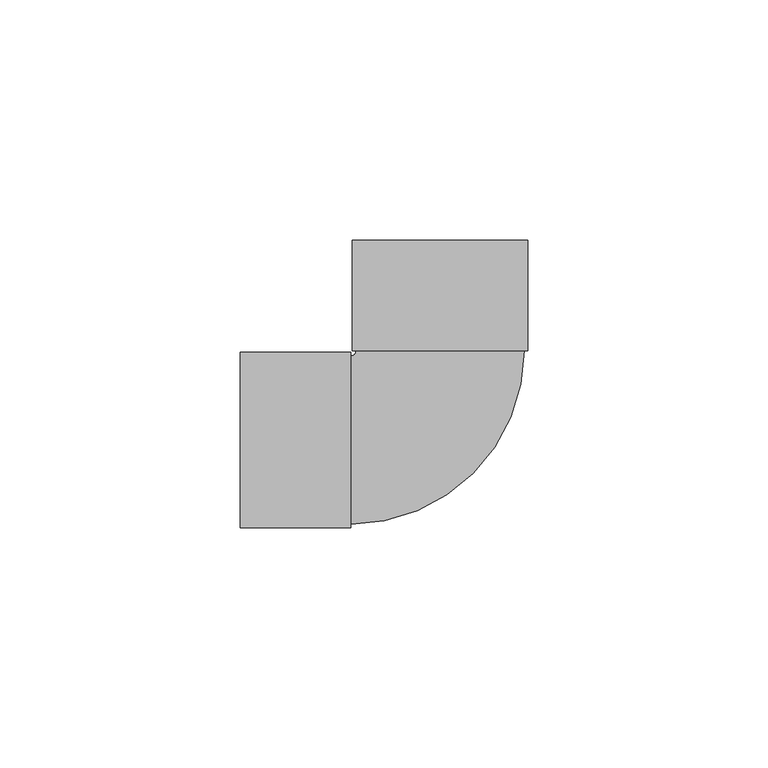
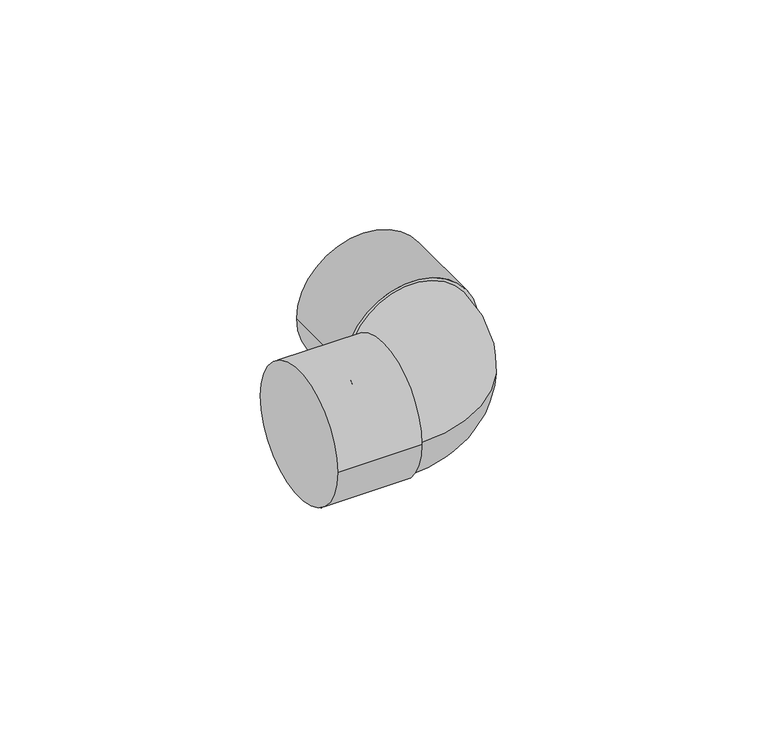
"""IFC4 building model written with IfcOpenShell, lengths in millimetres: pipe fitting geometry, Cotovelo - Soldado - CU : Padrão."""

from ifc_helpers import new_model, si_unit, point, frame, origin, place, context, project, spatial, circle_curve, ellipse_curve, trimmed, source, transform, mapped, element, save
from ifc_brep_helpers import plane_surface, cylinder_surface, revolved_surface, advanced_brep


def pipe_fitting_535881cf(model_context):
    return source(origin(), model_context, "Body", "AdvancedBrep", [
        advanced_brep(
        [(-17.5, 18.6, 0.0), (-18.6, 17.5, 0.0), (-18.6, -17.5, 0.0), (17.5, 18.6, 0.0), (-41.6, -18.28, 0.0), (-41.6, 18.28, 0.0), (-18.6, -18.28, 0.0), (-18.6, 18.28, 0.0), (-18.28, 41.6, 0.0), (18.28, 41.6, 0.0), (-18.28, 18.6, 0.0), (18.28, 18.6, 0.0)],
        [
            (0, 1, circle_curve(frame((-18.6, 18.6, 0.0), z_axis=(0.0, 0.0, -1.0), x_axis=(0.0, -1.0, 0.0)), 1.1)),
            (1, 2, circle_curve(frame((-18.6, 0.0, 0.0), z_axis=(1.0, 0.0, 0.0), x_axis=(0.0, 1.0, 0.0)), 17.5)),
            (2, 3, circle_curve(frame((-18.6, 18.6, 0.0), z_axis=(0.0, 0.0, 1.0), x_axis=(0.0, -1.0, 0.0)), 36.1)),
            (3, 0, circle_curve(frame((0.0, 18.6, 0.0), z_axis=(0.0, -1.0, 0.0), x_axis=(-1.0, 0.0, 0.0)), 17.5)),
            (0, 3, circle_curve(frame((0.0, 18.6, 0.0), z_axis=(0.0, -1.0, 0.0), x_axis=(-1.0, 0.0, 0.0)), 17.5)),
            (2, 1, circle_curve(frame((-18.6, 0.0, 0.0), z_axis=(1.0, 0.0, 0.0), x_axis=(0.0, 1.0, 0.0)), 17.5)),
            (4, 5, circle_curve(frame((-41.6, 0.0, 0.0), z_axis=(-1.0, 0.0, 0.0), x_axis=(0.0, 1.0, 0.0)), 18.28)),
            (5, 4, circle_curve(frame((-41.6, 0.0, 0.0), z_axis=(-1.0, 0.0, 0.0), x_axis=(0.0, 1.0, 0.0)), 18.28)),
            (6, 7, circle_curve(frame((-18.6, 0.0, 0.0), z_axis=(1.0, 0.0, 0.0), x_axis=(0.0, 1.0, 0.0)), 18.28)),
            (7, 6, circle_curve(frame((-18.6, 0.0, 0.0), z_axis=(1.0, 0.0, 0.0), x_axis=(0.0, 1.0, 0.0)), 18.28)),
            (4, 6),
            (7, 5),
            (8, 9, circle_curve(frame((0.0, 41.6, 0.0), z_axis=(0.0, 1.0, 0.0), x_axis=(1.0, 0.0, 0.0)), 18.28)),
            (9, 8, circle_curve(frame((0.0, 41.6, 0.0), z_axis=(0.0, 1.0, 0.0), x_axis=(1.0, 0.0, 0.0)), 18.28)),
            (10, 11, circle_curve(frame((0.0, 18.6, 0.0), z_axis=(0.0, -1.0, 0.0), x_axis=(1.0, 0.0, 0.0)), 18.28)),
            (11, 10, circle_curve(frame((0.0, 18.6, 0.0), z_axis=(0.0, -1.0, 0.0), x_axis=(1.0, 0.0, 0.0)), 18.28)),
            (8, 10),
            (11, 9),
        ],
        [
            revolved_surface(trimmed(ellipse_curve(frame((-18.6, 0.0, 0.0), z_axis=(-1.0, 0.0, 0.0), x_axis=(0.0, 1.0, 0.0)), 17.5, 17.5), [point((-18.6, -17.5, 0.0))], [point((-18.6, 17.5, 0.0))], True, "CARTESIAN"), (-18.6, 18.6, 0.0), (0.0, 0.0, 1.0)),
            revolved_surface(trimmed(ellipse_curve(frame((-18.6, 0.0, 0.0), z_axis=(-1.0, 0.0, 0.0), x_axis=(0.0, 1.0, 0.0)), 17.5, 17.5), [point((-18.6, 17.5, 0.0))], [point((-18.6, -17.5, 0.0))], True, "CARTESIAN"), (-18.6, 18.6, 0.0), (0.0, 0.0, 1.0)),
            plane_surface(frame((-41.6, 0.0, 0.0), z_axis=(-1.0, 0.0, 0.0), x_axis=(0.0, 0.0, 1.0))),
            plane_surface(frame((-18.6, 0.0, 0.0), z_axis=(1.0, 0.0, 0.0), x_axis=(0.0, 0.0, 1.0))),
            cylinder_surface(frame((-41.6, 0.0, 0.0), z_axis=(-1.0, 0.0, 0.0), x_axis=(0.0, 1.0, 0.0)), 18.28),
            plane_surface(frame((0.0, 41.6, 0.0), z_axis=(0.0, 1.0, 0.0), x_axis=(0.0, 0.0, 1.0))),
            plane_surface(frame((0.0, 18.6, 0.0), z_axis=(0.0, -1.0, 0.0), x_axis=(0.0, 0.0, 1.0))),
            cylinder_surface(frame((0.0, 41.6, 0.0), z_axis=(0.0, 1.0, 0.0), x_axis=(1.0, 0.0, 0.0)), 18.28),
        ],
        [
            (0, [[1, 2, 3, 4]]),
            (1, [[-1, 5, -3, 6]]),
            (2, [[7, 8]]),
            (3, [[9, 10], [-2, -6]]),
            (4, [[-7, 11, -10, 12]]),
            (4, [[-8, -12, -9, -11]]),
            (5, [[13, 14]]),
            (6, [[15, 16], [-4, -5]]),
            (7, [[-13, 17, -16, 18]]),
            (7, [[-14, -18, -15, -17]]),
        ],
    ),
    ])


if __name__ == "__main__":
    model = new_model("IFC4")
    model_context = context("Model", 3, world=origin())
    ifc_project = project(units=[si_unit("LENGTHUNIT", "METRE", prefix="MILLI")], contexts=[model_context])
    site = spatial("IfcSite", under=ifc_project)
    building = spatial("IfcBuilding", under=site)
    placement = place(None, origin())
    pipe_fitting_shape = pipe_fitting_535881cf(model_context)
    element("IfcPipeFitting", 1, ObjectType="Cotovelo - Soldado - CU : Padrão", at=placement, inside=building, context=model_context, shape_type="MappedRepresentation", body=[
        mapped(pipe_fitting_shape, transform((0.0, 0.0, 0.0), x_axis=(1.0, 0.0, 0.0), y_axis=(0.0, 1.0, 0.0), z_axis=(0.0, 0.0, 1.0))),
    ])
    save(model, "model.ifc")
